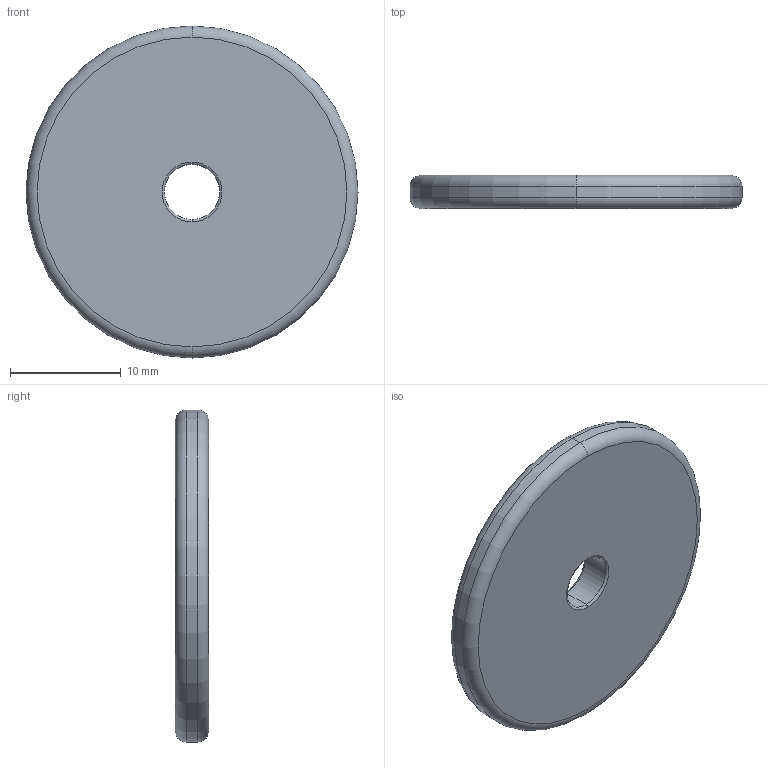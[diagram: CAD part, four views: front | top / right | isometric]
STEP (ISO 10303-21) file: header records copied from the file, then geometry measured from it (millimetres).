
FILE_DESCRIPTION (( 'STEP AP214' ), '1' );
FILE_NAME ('BAG4T22.STEP', '2025-09-10T01:48:07', ( '' ), ( '' ), 'SwSTEP 2.0', 'SolidWorks 2022', '' );
FILE_SCHEMA (( 'AUTOMOTIVE_DESIGN' ));
Length unit declared in the file: millimetre
Products named in the file (1): BAG4T22
Bounding box: 30 x 3 x 30 mm (x, y, z)
Volume: 2021.5 mm3; surface area: 1619.9 mm2
Topology: 1 solids, 1 shells, 14 faces, 28 edges, 16 vertices
Faces by surface type: torus 8, cylinder 4, plane 2
Entity records: 410 total; most frequent: DIRECTION 82, CARTESIAN_POINT 59, ORIENTED_EDGE 56, AXIS2_PLACEMENT_3D 39, EDGE_CURVE 28, CIRCLE 24, EDGE_LOOP 16, VERTEX_POINT 16
